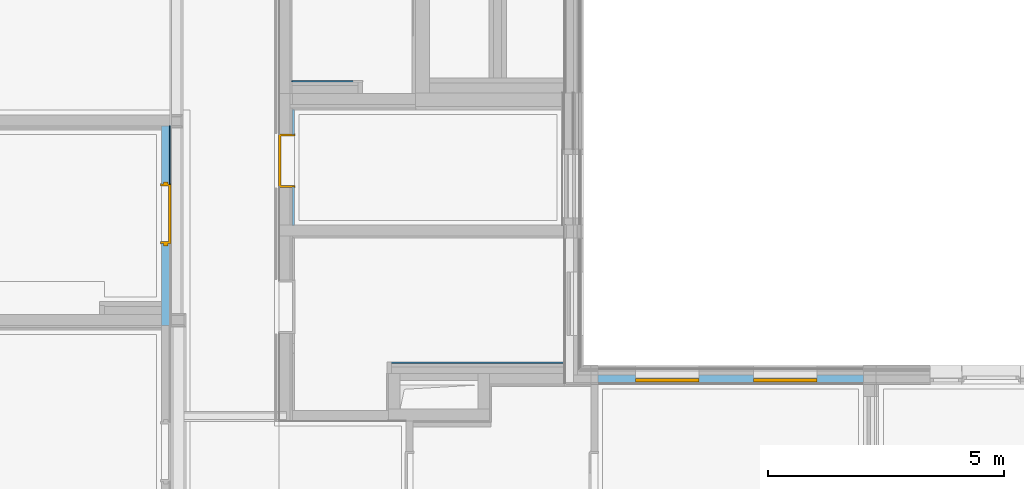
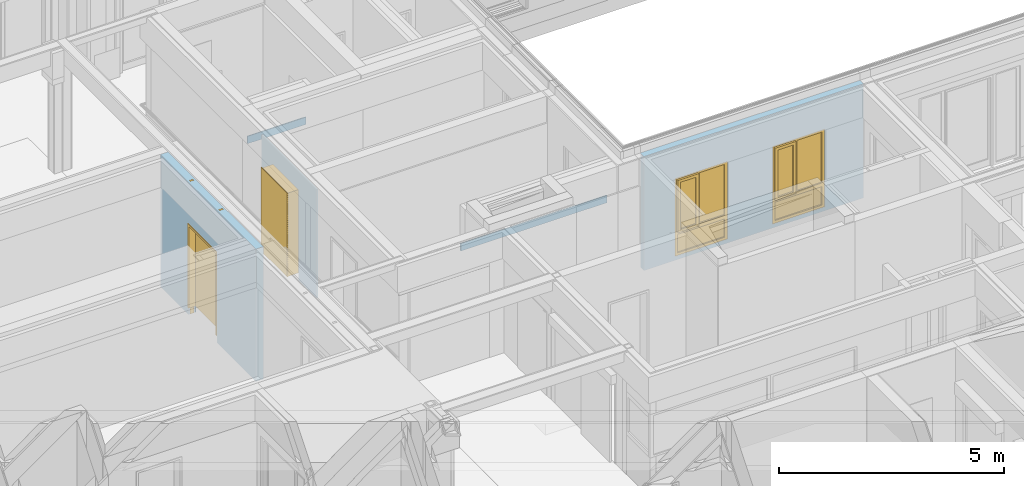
# One storey, part 99 of 207: 3 walls, 2 doors, 2 windows, 4 openings, plus 3 elements that do not belong to this part.
"""IFC4 building model written with IfcOpenShell, lengths in metres."""

from ifc_helpers import new_model, entity, si_unit, converted_unit, derived_unit, frame, frame_2d, origin, origin_with_axes, place, context, subcontext, project, spatial, polyline, rectangle, outline, extrude, closed_shell, open_shell, faceted_brep, surface_model, source, transform, mapped, material, type_object, element, fill, save


model = new_model("IFC4")

# Units and contexts
model_context = context("Model", 3, precision=1e-05, world=origin())
body_context = subcontext(model_context, "Body", "Model", "MODEL_VIEW")
ifc_project = project(units=[si_unit("LENGTHUNIT", "METRE"), si_unit("AREAUNIT", "SQUARE_METRE"), si_unit("VOLUMEUNIT", "CUBIC_METRE"), si_unit("MASSUNIT", "GRAM", prefix="KILO"), converted_unit("PLANEANGLEUNIT", "DEGREE", entity("IfcPlaneAngleMeasure", 0.0174532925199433), si_unit("PLANEANGLEUNIT", "RADIAN"), dimensions=[0, 0, 0, 0, 0, 0, 0]), derived_unit("THERMALTRANSMITTANCEUNIT", [(si_unit("POWERUNIT", "WATT"), 1), (si_unit("THERMODYNAMICTEMPERATUREUNIT", "KELVIN"), -1), (si_unit("LENGTHUNIT", "METRE"), -2)]), derived_unit("VOLUMETRICFLOWRATEUNIT", [(si_unit("LENGTHUNIT", "METRE"), 3), (converted_unit("TIMEUNIT", "hour", entity("IfcTimeMeasure", 3600.0), si_unit("TIMEUNIT", "SECOND"), dimensions=[0, 0, 1, 0, 0, 0, 0]), -1), (si_unit("LENGTHUNIT", "METRE"), -1)])], contexts=[model_context])

# Site, building, storey
site_placement = place(None, origin())
site = spatial("IfcSite", under=ifc_project, at=site_placement, Name="Psychiatrie Neubau Wunstorf", CompositionType="ELEMENT")
building_placement = place(site_placement, origin())
building = spatial("IfcBuilding", under=site, at=building_placement, Name="Neubau H2 Stationsgebäude", CompositionType="ELEMENT")
storey_placement = place(building_placement, frame((0.0, 0.0, -0.2)))
storey = spatial("IfcBuildingStorey", under=building, at=storey_placement, Name="H2 Ebene 0", CompositionType="ELEMENT", Elevation=-0.2)

# Wall, openings, windows
ifc_material_1 = material(Name="WA-HD")
wall_1_placement = place(storey_placement, frame((44.65, 10.1499996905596, 0.5), z_axis=(0.0, 0.0, 1.0), x_axis=(1.0, -3.22744748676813e-16, 0.0)))
wall_1 = element("IfcWall", 1, at=wall_1_placement, inside=storey, material=ifc_material_1, context=body_context, shape_type="SweptSolid", body=[
    extrude(rectangle(XDim=5.63600000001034, YDim=0.16, at=frame_2d((2.81800000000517, 0.08), x_axis=(1.0, 0.0))), origin_with_axes(), (0.0, 0.0, 1.0), 3.1),
])
opening_1_placement = place(wall_1_placement, frame((4.64870000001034, 0.16, 0.1), z_axis=(0.0, -1.0, 0.0), x_axis=(0.0, 0.0, 1.0)))
opening_1 = element("IfcOpeningElement", 2, at=opening_1_placement, cuts=wall_1, Name="Fensteröffnung", ObjectType="Opening", context=body_context, shape_type="SweptSolid", body=[
    extrude(outline(polyline([(2.12, 1.35), (2.12, 0.0), (0.0, 0.0), (0.0, 1.35), (2.12, 1.35)])), origin_with_axes(), (0.0, 0.0, 1.0), 0.16),
])
opening_2_placement = place(wall_1_placement, frame((2.14870000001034, 0.160000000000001, 0.1), z_axis=(0.0, -1.0, 0.0), x_axis=(0.0, 0.0, 1.0)))
opening_2 = element("IfcOpeningElement", 3, at=opening_2_placement, cuts=wall_1, Name="Fensteröffnung", ObjectType="Opening", context=body_context, shape_type="SweptSolid", body=[
    extrude(outline(polyline([(2.12, 1.35), (2.12, 0.0), (0.0, 0.0), (0.0, 1.35), (2.12, 1.35)])), origin_with_axes(), (0.0, 0.0, 1.0), 0.16),
])
shared_shape_1 = source(origin_with_axes(), body_context, "Body", "SurfaceModel", [
    surface_model("IfcShellBasedSurfaceModel", [(0.0, 0.0, 2.12), (0.07, 0.0, 2.12), (0.07, 0.0, 0.0), (0.0, 0.0, 0.0), (0.0, 0.07, 0.0), (0.07, 0.07, 0.0), (0.07, 0.07, 2.12), (0.0, 0.07, 2.12)], [closed_shell([[[0, 1, 2, 3]], [[4, 5, 6, 7]], [[3, 4, 7, 0]], [[2, 5, 4, 3]], [[1, 6, 5, 2]], [[0, 7, 6, 1]]], orient=[[False], [False], [False], [False], [False], [False]])]),
    surface_model("IfcShellBasedSurfaceModel", [(1.28, 0.0, 2.12), (1.35, 0.0, 2.12), (1.35, 0.0, 0.0), (1.28, 0.0, 0.0), (1.28, 0.07, 0.0), (1.35, 0.07, 0.0), (1.35, 0.07, 2.12), (1.28, 0.07, 2.12)], [closed_shell([[[0, 1, 2, 3]], [[4, 5, 6, 7]], [[3, 4, 7, 0]], [[2, 5, 4, 3]], [[1, 6, 5, 2]], [[0, 7, 6, 1]]], orient=[[False], [False], [False], [False], [False], [False]])]),
    surface_model("IfcShellBasedSurfaceModel", [(0.07, 0.0, 0.07), (1.28, 0.0, 0.07), (1.28, 0.0, 0.0), (0.07, 0.0, 0.0), (0.07, 0.07, 0.0), (1.28, 0.07, 0.0), (1.28, 0.07, 0.07), (0.07, 0.07, 0.07)], [closed_shell([[[0, 1, 2, 3]], [[4, 5, 6, 7]], [[3, 4, 7, 0]], [[2, 5, 4, 3]], [[1, 6, 5, 2]], [[0, 7, 6, 1]]], orient=[[False], [False], [False], [False], [False], [False]])]),
    surface_model("IfcShellBasedSurfaceModel", [(0.07, 0.0, 2.12), (1.28, 0.0, 2.12), (1.28, 0.0, 2.05), (0.07, 0.0, 2.05), (0.07, 0.07, 2.05), (1.28, 0.07, 2.05), (1.28, 0.07, 2.12), (0.07, 0.07, 2.12)], [closed_shell([[[0, 1, 2, 3]], [[4, 5, 6, 7]], [[3, 4, 7, 0]], [[2, 5, 4, 3]], [[1, 6, 5, 2]], [[0, 7, 6, 1]]], orient=[[False], [False], [False], [False], [False], [False]])]),
    surface_model("IfcShellBasedSurfaceModel", [(0.07, 0.0, 0.67), (1.28, 0.0, 0.67), (1.28, 0.0, 0.57), (0.07, 0.0, 0.57), (0.07, 0.07, 0.57), (1.28, 0.07, 0.57), (1.28, 0.07, 0.67), (0.07, 0.07, 0.67)], [closed_shell([[[0, 1, 2, 3]], [[4, 5, 6, 7]], [[3, 4, 7, 0]], [[2, 5, 4, 3]], [[1, 6, 5, 2]], [[0, 7, 6, 1]]], orient=[[False], [False], [False], [False], [False], [False]])]),
    surface_model("IfcShellBasedSurfaceModel", [(0.07, 0.035, 0.07), (0.07, 0.035, 0.57), (1.28, 0.035, 0.57), (1.28, 0.035, 0.07)], [open_shell([[[0, 1, 2, 3]]], orient=[[False]])]),
    surface_model("IfcShellBasedSurfaceModel", [(0.57, 0.0, 2.05), (0.64, 0.0, 2.05), (0.64, 0.0, 0.67), (0.57, 0.0, 0.67), (0.57, 0.07, 0.67), (0.64, 0.07, 0.67), (0.64, 0.07, 2.05), (0.57, 0.07, 2.05)], [closed_shell([[[0, 1, 2, 3]], [[4, 5, 6, 7]], [[3, 4, 7, 0]], [[2, 5, 4, 3]], [[1, 6, 5, 2]], [[0, 7, 6, 1]]], orient=[[False], [False], [False], [False], [False], [False]])]),
    surface_model("IfcShellBasedSurfaceModel", [(0.05, -0.05, 2.07), (0.12, -0.05, 2.07), (0.12, -0.05, 0.65), (0.05, -0.05, 0.65), (0.05, 0.02, 0.65), (0.12, 0.02, 0.65), (0.12, 0.02, 2.07), (0.05, 0.02, 2.07)], [closed_shell([[[0, 1, 2, 3]], [[4, 5, 6, 7]], [[3, 4, 7, 0]], [[2, 5, 4, 3]], [[1, 6, 5, 2]], [[0, 7, 6, 1]]], orient=[[False], [False], [False], [False], [False], [False]])]),
    surface_model("IfcShellBasedSurfaceModel", [(0.52, -0.05, 2.07), (0.59, -0.05, 2.07), (0.59, -0.05, 0.65), (0.52, -0.05, 0.65), (0.52, 0.02, 0.65), (0.59, 0.02, 0.65), (0.59, 0.02, 2.07), (0.52, 0.02, 2.07)], [closed_shell([[[0, 1, 2, 3]], [[4, 5, 6, 7]], [[3, 4, 7, 0]], [[2, 5, 4, 3]], [[1, 6, 5, 2]], [[0, 7, 6, 1]]], orient=[[False], [False], [False], [False], [False], [False]])]),
    surface_model("IfcShellBasedSurfaceModel", [(0.12, -0.05, 0.72), (0.52, -0.05, 0.72), (0.52, -0.05, 0.65), (0.12, -0.05, 0.65), (0.12, 0.02, 0.65), (0.52, 0.02, 0.65), (0.52, 0.02, 0.72), (0.12, 0.02, 0.72)], [closed_shell([[[0, 1, 2, 3]], [[4, 5, 6, 7]], [[3, 4, 7, 0]], [[2, 5, 4, 3]], [[1, 6, 5, 2]], [[0, 7, 6, 1]]], orient=[[False], [False], [False], [False], [False], [False]])]),
    surface_model("IfcShellBasedSurfaceModel", [(0.12, -0.05, 2.07), (0.52, -0.05, 2.07), (0.52, -0.05, 2.0), (0.12, -0.05, 2.0), (0.12, 0.02, 2.0), (0.52, 0.02, 2.0), (0.52, 0.02, 2.07), (0.12, 0.02, 2.07)], [closed_shell([[[0, 1, 2, 3]], [[4, 5, 6, 7]], [[3, 4, 7, 0]], [[2, 5, 4, 3]], [[1, 6, 5, 2]], [[0, 7, 6, 1]]], orient=[[False], [False], [False], [False], [False], [False]])]),
    surface_model("IfcShellBasedSurfaceModel", [(0.64, 0.035, 0.67), (0.64, 0.035, 2.05), (1.28, 0.035, 2.05), (1.28, 0.035, 0.67)], [open_shell([[[0, 1, 2, 3]]], orient=[[False]])]),
    surface_model("IfcShellBasedSurfaceModel", [(0.12, -0.015, 0.72), (0.12, -0.015, 2.0), (0.52, -0.015, 2.0), (0.52, -0.015, 0.72)], [open_shell([[[0, 1, 2, 3]]], orient=[[False]])]),
])
window_1_placement = place(opening_1_placement, frame((0.0, 1.35, 0.146), z_axis=(1.0, 0.0, 0.0), x_axis=(0.0, -1.0, -3.22744748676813e-16)))
window_1 = element("IfcWindow", 4, at=window_1_placement, inside=storey, Name="Fenster", OverallHeight=2.12, OverallWidth=1.35, PartitioningType="USERDEFINED", PredefinedType="WINDOW", context=body_context, shape_type="MappedRepresentation", body=[
    mapped(shared_shape_1, transform((0.0, 0.0, 0.0), x_axis=(1.0, 0.0, 0.0), y_axis=(0.0, 1.0, 0.0), z_axis=(0.0, 0.0, 1.0), scale=1.0)),
])
fill(opening_1, window_1)
shared_shape_2 = source(origin_with_axes(), body_context, "Body", "SurfaceModel", [
    surface_model("IfcShellBasedSurfaceModel", [(0.0, 0.0, 2.12), (0.07, 0.0, 2.12), (0.07, 0.0, 0.0), (0.0, 0.0, 0.0), (0.0, 0.07, 0.0), (0.07, 0.07, 0.0), (0.07, 0.07, 2.12), (0.0, 0.07, 2.12)], [closed_shell([[[0, 1, 2, 3]], [[4, 5, 6, 7]], [[3, 4, 7, 0]], [[2, 5, 4, 3]], [[1, 6, 5, 2]], [[0, 7, 6, 1]]], orient=[[False], [False], [False], [False], [False], [False]])]),
    surface_model("IfcShellBasedSurfaceModel", [(1.28, 0.0, 2.12), (1.35, 0.0, 2.12), (1.35, 0.0, 0.0), (1.28, 0.0, 0.0), (1.28, 0.07, 0.0), (1.35, 0.07, 0.0), (1.35, 0.07, 2.12), (1.28, 0.07, 2.12)], [closed_shell([[[0, 1, 2, 3]], [[4, 5, 6, 7]], [[3, 4, 7, 0]], [[2, 5, 4, 3]], [[1, 6, 5, 2]], [[0, 7, 6, 1]]], orient=[[False], [False], [False], [False], [False], [False]])]),
    surface_model("IfcShellBasedSurfaceModel", [(0.07, 0.0, 0.07), (1.28, 0.0, 0.07), (1.28, 0.0, 0.0), (0.07, 0.0, 0.0), (0.07, 0.07, 0.0), (1.28, 0.07, 0.0), (1.28, 0.07, 0.07), (0.07, 0.07, 0.07)], [closed_shell([[[0, 1, 2, 3]], [[4, 5, 6, 7]], [[3, 4, 7, 0]], [[2, 5, 4, 3]], [[1, 6, 5, 2]], [[0, 7, 6, 1]]], orient=[[False], [False], [False], [False], [False], [False]])]),
    surface_model("IfcShellBasedSurfaceModel", [(0.07, 0.0, 2.12), (1.28, 0.0, 2.12), (1.28, 0.0, 2.05), (0.07, 0.0, 2.05), (0.07, 0.07, 2.05), (1.28, 0.07, 2.05), (1.28, 0.07, 2.12), (0.07, 0.07, 2.12)], [closed_shell([[[0, 1, 2, 3]], [[4, 5, 6, 7]], [[3, 4, 7, 0]], [[2, 5, 4, 3]], [[1, 6, 5, 2]], [[0, 7, 6, 1]]], orient=[[False], [False], [False], [False], [False], [False]])]),
    surface_model("IfcShellBasedSurfaceModel", [(0.07, 0.0, 0.67), (1.28, 0.0, 0.67), (1.28, 0.0, 0.57), (0.07, 0.0, 0.57), (0.07, 0.07, 0.57), (1.28, 0.07, 0.57), (1.28, 0.07, 0.67), (0.07, 0.07, 0.67)], [closed_shell([[[0, 1, 2, 3]], [[4, 5, 6, 7]], [[3, 4, 7, 0]], [[2, 5, 4, 3]], [[1, 6, 5, 2]], [[0, 7, 6, 1]]], orient=[[False], [False], [False], [False], [False], [False]])]),
    surface_model("IfcShellBasedSurfaceModel", [(0.07, 0.035, 0.07), (0.07, 0.035, 0.57), (1.28, 0.035, 0.57), (1.28, 0.035, 0.07)], [open_shell([[[0, 1, 2, 3]]], orient=[[False]])]),
    surface_model("IfcShellBasedSurfaceModel", [(0.57, 0.0, 2.05), (0.64, 0.0, 2.05), (0.64, 0.0, 0.67), (0.57, 0.0, 0.67), (0.57, 0.07, 0.67), (0.64, 0.07, 0.67), (0.64, 0.07, 2.05), (0.57, 0.07, 2.05)], [closed_shell([[[0, 1, 2, 3]], [[4, 5, 6, 7]], [[3, 4, 7, 0]], [[2, 5, 4, 3]], [[1, 6, 5, 2]], [[0, 7, 6, 1]]], orient=[[False], [False], [False], [False], [False], [False]])]),
    surface_model("IfcShellBasedSurfaceModel", [(0.05, -0.05, 2.07), (0.12, -0.05, 2.07), (0.12, -0.05, 0.65), (0.05, -0.05, 0.65), (0.05, 0.02, 0.65), (0.12, 0.02, 0.65), (0.12, 0.02, 2.07), (0.05, 0.02, 2.07)], [closed_shell([[[0, 1, 2, 3]], [[4, 5, 6, 7]], [[3, 4, 7, 0]], [[2, 5, 4, 3]], [[1, 6, 5, 2]], [[0, 7, 6, 1]]], orient=[[False], [False], [False], [False], [False], [False]])]),
    surface_model("IfcShellBasedSurfaceModel", [(0.52, -0.05, 2.07), (0.59, -0.05, 2.07), (0.59, -0.05, 0.65), (0.52, -0.05, 0.65), (0.52, 0.02, 0.65), (0.59, 0.02, 0.65), (0.59, 0.02, 2.07), (0.52, 0.02, 2.07)], [closed_shell([[[0, 1, 2, 3]], [[4, 5, 6, 7]], [[3, 4, 7, 0]], [[2, 5, 4, 3]], [[1, 6, 5, 2]], [[0, 7, 6, 1]]], orient=[[False], [False], [False], [False], [False], [False]])]),
    surface_model("IfcShellBasedSurfaceModel", [(0.12, -0.05, 0.72), (0.52, -0.05, 0.72), (0.52, -0.05, 0.65), (0.12, -0.05, 0.65), (0.12, 0.02, 0.65), (0.52, 0.02, 0.65), (0.52, 0.02, 0.72), (0.12, 0.02, 0.72)], [closed_shell([[[0, 1, 2, 3]], [[4, 5, 6, 7]], [[3, 4, 7, 0]], [[2, 5, 4, 3]], [[1, 6, 5, 2]], [[0, 7, 6, 1]]], orient=[[False], [False], [False], [False], [False], [False]])]),
    surface_model("IfcShellBasedSurfaceModel", [(0.12, -0.05, 2.07), (0.52, -0.05, 2.07), (0.52, -0.05, 2.0), (0.12, -0.05, 2.0), (0.12, 0.02, 2.0), (0.52, 0.02, 2.0), (0.52, 0.02, 2.07), (0.12, 0.02, 2.07)], [closed_shell([[[0, 1, 2, 3]], [[4, 5, 6, 7]], [[3, 4, 7, 0]], [[2, 5, 4, 3]], [[1, 6, 5, 2]], [[0, 7, 6, 1]]], orient=[[False], [False], [False], [False], [False], [False]])]),
    surface_model("IfcShellBasedSurfaceModel", [(0.64, 0.035, 0.67), (0.64, 0.035, 2.05), (1.28, 0.035, 2.05), (1.28, 0.035, 0.67)], [open_shell([[[0, 1, 2, 3]]], orient=[[False]])]),
    surface_model("IfcShellBasedSurfaceModel", [(0.12, -0.015, 0.72), (0.12, -0.015, 2.0), (0.52, -0.015, 2.0), (0.52, -0.015, 0.72)], [open_shell([[[0, 1, 2, 3]]], orient=[[False]])]),
])
window_2_placement = place(opening_2_placement, frame((0.0, 1.35, 0.146), z_axis=(1.0, 0.0, 0.0), x_axis=(0.0, -1.0, -3.22744748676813e-16)))
window_2 = element("IfcWindow", 5, at=window_2_placement, inside=storey, Name="Fenster", OverallHeight=2.12, OverallWidth=1.35, PartitioningType="USERDEFINED", PredefinedType="WINDOW", context=body_context, shape_type="MappedRepresentation", body=[
    mapped(shared_shape_2, transform((0.0, 0.0, 0.0), x_axis=(1.0, 0.0, 0.0), y_axis=(0.0, 1.0, 0.0), z_axis=(0.0, 0.0, 1.0), scale=1.0)),
])
fill(opening_2, window_2)

# Walls
wall_2_placement = place(storey_placement, frame((38.154, 16.5320060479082, 2.35)))
element("IfcWall", 6, at=wall_2_placement, inside=storey, Name="WV 1.1", context=body_context, shape_type="Brep", body=[
    faceted_brep([(1.5, 0.0, 0.0), (1.5, 0.025, 0.0), (0.0, 0.025, 0.0), (0.0, 0.0, 0.0), (1.5, 0.025, 0.2), (1.5, 0.0, 0.2), (0.0, 0.0, 0.2), (0.0, 0.025, 0.2)], [[[0, 1, 2, 3]], [[4, 5, 6, 7]], [[1, 0, 5, 4]], [[2, 1, 4, 7]], [[3, 2, 7, 6]], [[0, 3, 6, 5]]], orient=[[False], [False], [False], [False], [False], [False]]),
])
wall_3_placement = place(storey_placement, frame((40.1790000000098, 10.5559937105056, 2.35)))
element("IfcWall", 7, at=wall_3_placement, inside=storey, Name="WV 1.1", context=body_context, shape_type="Brep", body=[
    faceted_brep([(3.76, 0.0, 0.0), (3.76, 0.025, 0.0), (0.0, 0.0249999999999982, 0.0), (0.0, 0.0, 0.0), (3.76, 0.025, 0.2), (3.76, 0.0, 0.2), (0.0, 0.0, 0.2), (0.0, 0.0249999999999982, 0.2)], [[[0, 1, 2, 3]], [[4, 5, 6, 7]], [[1, 0, 5, 4]], [[2, 1, 4, 7]], [[3, 2, 7, 6]], [[0, 3, 6, 5]]], orient=[[False], [False], [False], [False], [False], [False]]),
])

# Wall, opening, door
ifc_material_2 = material(Name="WI-LB")
wall_4_placement = place(storey_placement, frame((38.204, 13.489496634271, 0.0), z_axis=(0.0, 0.0, 1.0), x_axis=(0.0, 1.0, 0.0)))
wall_4 = element("IfcWall", 8, at=wall_4_placement, inside=storey, material=ifc_material_2, context=body_context, shape_type="SweptSolid", body=[
    extrude(rectangle(XDim=2.44600941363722, YDim=0.0395, at=frame_2d((1.22300470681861, 0.01975), x_axis=(1.0, 0.0))), origin_with_axes(), (0.0, 0.0, 1.0), 2.95),
])
opening_3_placement = place(wall_4_placement, frame((1.93550336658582, 0.0395, 0.0), z_axis=(0.0, -1.0, 0.0), x_axis=(0.0, 0.0, 1.0)))
opening_3 = element("IfcOpeningElement", 9, at=opening_3_placement, cuts=wall_4, Name="Türöffnung", ObjectType="Opening", context=body_context, shape_type="SweptSolid", body=[
    extrude(outline(polyline([(2.46, 1.135), (2.46, 0.0), (0.0, 0.0), (0.0, 1.135), (2.46, 1.135)])), origin_with_axes(), (0.0, 0.0, 1.0), 0.0395),
])
ifc_material_3 = material(Name="TI-1F-UZ-D")
door_type_1 = type_object("IfcDoorType", Name="SMT", OperationType="SINGLE_SWING_RIGHT", ParameterTakesPrecedence=False, PredefinedType="DOOR")
shared_shape_3 = source(origin_with_axes(), body_context, "Body", "Brep", [
    faceted_brep([(1.135, -0.0149999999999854, 2.46), (1.135, -0.0149999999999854, 0.2), (1.095, -0.0149999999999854, 0.2), (1.095, -0.0149999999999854, 2.46), (1.135, 0.336500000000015, 0.2), (1.135, 0.336500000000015, 2.46), (1.095, 0.336500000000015, 2.46), (1.095, 0.336500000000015, 0.2)], [[[0, 1, 2, 3]], [[4, 5, 6, 7]], [[1, 0, 5, 4]], [[2, 1, 4, 7]], [[3, 2, 7, 6]], [[0, 3, 6, 5]]], orient=[[False], [False], [False], [False], [False], [False]]),
    faceted_brep([(1.135, -0.0149999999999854, 2.475), (1.15, -0.0149999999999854, 2.475), (1.15, -0.0149999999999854, 0.2), (1.135, -0.0149999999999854, 0.2), (1.135, 0.0, 0.2), (1.15, 0.0, 0.2), (1.15, 0.0, 2.475), (1.135, 0.0, 2.475)], [[[0, 1, 2, 3]], [[4, 5, 6, 7]], [[3, 4, 7, 0]], [[2, 5, 4, 3]], [[1, 6, 5, 2]], [[0, 7, 6, 1]]], orient=[[False], [False], [False], [False], [False], [False]]),
    faceted_brep([(1.135, 0.321500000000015, 2.475), (1.15, 0.321500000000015, 2.475), (1.15, 0.321500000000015, 0.2), (1.135, 0.321500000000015, 0.2), (1.135, 0.336500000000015, 0.2), (1.15, 0.336500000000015, 0.2), (1.15, 0.336500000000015, 2.475), (1.135, 0.336500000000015, 2.475)], [[[0, 1, 2, 3]], [[4, 5, 6, 7]], [[3, 4, 7, 0]], [[2, 5, 4, 3]], [[1, 6, 5, 2]], [[0, 7, 6, 1]]], orient=[[False], [False], [False], [False], [False], [False]]),
    faceted_brep([(0.0399999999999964, -0.0149999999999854, 2.46), (0.0399999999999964, -0.0149999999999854, 0.2), (0.0, -0.0149999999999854, 0.2), (0.0, -0.0149999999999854, 2.46), (0.0399999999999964, 0.336500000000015, 0.2), (0.0399999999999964, 0.336500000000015, 2.46), (0.0, 0.336500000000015, 2.46), (0.0, 0.336500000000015, 0.2)], [[[0, 1, 2, 3]], [[4, 5, 6, 7]], [[1, 0, 5, 4]], [[2, 1, 4, 7]], [[3, 2, 7, 6]], [[0, 3, 6, 5]]], orient=[[False], [False], [False], [False], [False], [False]]),
    faceted_brep([(0.0, -0.0149999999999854, 2.475), (0.0, -0.0149999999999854, 0.2), (-0.0150000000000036, -0.0149999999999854, 0.2), (-0.0150000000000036, -0.0149999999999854, 2.475), (0.0, 0.0, 0.2), (0.0, 0.0, 2.475), (-0.0150000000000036, 0.0, 2.475), (-0.0150000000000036, 0.0, 0.2)], [[[0, 1, 2, 3]], [[4, 5, 6, 7]], [[1, 0, 5, 4]], [[2, 1, 4, 7]], [[3, 2, 7, 6]], [[0, 3, 6, 5]]], orient=[[False], [False], [False], [False], [False], [False]]),
    faceted_brep([(0.0, 0.321500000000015, 2.475), (0.0, 0.321500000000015, 0.2), (-0.0150000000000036, 0.321500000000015, 0.2), (-0.0150000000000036, 0.321500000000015, 2.475), (0.0, 0.336500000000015, 0.2), (0.0, 0.336500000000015, 2.475), (-0.0150000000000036, 0.336500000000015, 2.475), (-0.0150000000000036, 0.336500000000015, 0.2)], [[[0, 1, 2, 3]], [[4, 5, 6, 7]], [[1, 0, 5, 4]], [[2, 1, 4, 7]], [[3, 2, 7, 6]], [[0, 3, 6, 5]]], orient=[[False], [False], [False], [False], [False], [False]]),
    faceted_brep([(1.095, -0.0149999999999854, 2.46), (1.095, -0.0149999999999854, 2.42), (0.0399999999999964, -0.0149999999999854, 2.42), (0.0399999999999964, -0.0149999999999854, 2.46), (1.095, 0.336500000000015, 2.42), (1.095, 0.336500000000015, 2.46), (0.0399999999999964, 0.336500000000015, 2.46), (0.0399999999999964, 0.336500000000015, 2.42)], [[[0, 1, 2, 3]], [[4, 5, 6, 7]], [[1, 0, 5, 4]], [[2, 1, 4, 7]], [[3, 2, 7, 6]], [[0, 3, 6, 5]]], orient=[[False], [False], [False], [False], [False], [False]]),
    faceted_brep([(1.135, -0.0149999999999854, 2.475), (1.135, -0.0149999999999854, 2.46), (0.0, -0.0149999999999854, 2.46), (0.0, -0.0149999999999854, 2.475), (1.135, 0.0, 2.46), (1.135, 0.0, 2.475), (0.0, 0.0, 2.475), (0.0, 0.0, 2.46)], [[[0, 1, 2, 3]], [[4, 5, 6, 7]], [[1, 0, 5, 4]], [[2, 1, 4, 7]], [[3, 2, 7, 6]], [[0, 3, 6, 5]]], orient=[[False], [False], [False], [False], [False], [False]]),
    faceted_brep([(1.135, 0.321500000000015, 2.475), (1.135, 0.321500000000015, 2.46), (0.0, 0.321500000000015, 2.46), (0.0, 0.321500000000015, 2.475), (1.135, 0.336500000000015, 2.46), (1.135, 0.336500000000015, 2.475), (0.0, 0.336500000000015, 2.475), (0.0, 0.336500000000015, 2.46)], [[[0, 1, 2, 3]], [[4, 5, 6, 7]], [[1, 0, 5, 4]], [[2, 1, 4, 7]], [[3, 2, 7, 6]], [[0, 3, 6, 5]]], orient=[[False], [False], [False], [False], [False], [False]]),
    faceted_brep([(1.11, 0.287500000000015, 2.435), (1.11, 0.287500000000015, 0.2), (0.0249999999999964, 0.287500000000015, 0.2), (0.0249999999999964, 0.287500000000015, 2.435), (1.11, 0.337500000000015, 0.2), (1.11, 0.337500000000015, 2.435), (0.0249999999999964, 0.337500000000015, 2.435), (0.0249999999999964, 0.337500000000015, 0.2)], [[[0, 1, 2, 3]], [[4, 5, 6, 7]], [[1, 0, 5, 4]], [[2, 1, 4, 7]], [[3, 2, 7, 6]], [[0, 3, 6, 5]]], orient=[[False], [False], [False], [False], [False], [False]]),
])
door_1_placement = place(opening_3_placement, frame((0.0, 1.135, 0.0395), z_axis=(1.0, 0.0, 0.0), x_axis=(0.0, -1.0, 0.0)))
door_1 = element("IfcDoor", 10, at=door_1_placement, inside=storey, type_object=door_type_1, material=ifc_material_3, Name="SMT", OverallHeight=2.46, OverallWidth=1.135, context=body_context, shape_type="MappedRepresentation", body=[
    mapped(shared_shape_3, transform((0.0, 0.0, 0.0), x_axis=(1.0, 0.0, 0.0), y_axis=(0.0, 1.0, 0.0), z_axis=(0.0, 0.0, 1.0), scale=1.0)),
])
fill(opening_3, door_1)

ifc_material_4 = material(Name="WI-LB")
wall_5_placement = place(storey_placement, frame((35.57, 11.3575575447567, 0.0), z_axis=(0.0, 0.0, 1.0), x_axis=(0.0, 1.0, 0.0)))
wall_5 = element("IfcWall", 11, at=wall_5_placement, inside=storey, material=ifc_material_4, context=body_context, shape_type="SweptSolid", body=[
    extrude(rectangle(XDim=4.24294154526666, YDim=0.19, at=frame_2d((2.12147077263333, 0.095), x_axis=(1.0, 0.0))), origin_with_axes(), (0.0, 0.0, 1.0), 3.6),
])
opening_4_placement = place(wall_5_placement, frame((3.00244245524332, 0.19, 0.0), z_axis=(0.0, -1.0, 0.0), x_axis=(0.0, 0.0, 1.0)))
opening_4 = element("IfcOpeningElement", 12, at=opening_4_placement, cuts=wall_5, Name="Türöffnung", ObjectType="Opening", context=body_context, shape_type="SweptSolid", body=[
    extrude(outline(polyline([(2.46, 1.26), (2.46, 0.0), (0.0, 0.0), (0.0, 1.26), (2.46, 1.26)])), origin_with_axes(), (0.0, 0.0, 1.0), 0.19),
])
ifc_material_5 = material(Name="TI-1F-UZ-D")
door_type_2 = type_object("IfcDoorType", Name="SMT", OperationType="SINGLE_SWING_RIGHT", ParameterTakesPrecedence=False, PredefinedType="DOOR")
shared_shape_4 = source(origin_with_axes(), body_context, "Body", "Brep", [
    faceted_brep([(-0.0499999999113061, 0.0449999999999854, 0.0), (0.0, 0.0449999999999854, 0.0), (0.0, 0.144999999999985, 0.0), (-0.0499999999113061, 0.144999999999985, 0.0), (-0.0499999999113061, 0.144999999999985, 3.6), (0.0, 0.144999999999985, 3.6), (0.0, 0.0449999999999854, 3.6), (-0.0499999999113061, 0.0449999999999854, 3.6)], [[[0, 1, 2, 3]], [[4, 5, 6, 7]], [[3, 4, 7, 0]], [[2, 5, 4, 3]], [[1, 6, 5, 2]], [[0, 7, 6, 1]]], orient=[[False], [False], [False], [False], [False], [False]]),
    faceted_brep([(1.26, 0.0449999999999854, 0.0), (1.30999999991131, 0.0449999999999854, 0.0), (1.30999999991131, 0.144999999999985, 0.0), (1.26, 0.144999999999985, 0.0), (1.26, 0.144999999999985, 3.6), (1.30999999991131, 0.144999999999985, 3.6), (1.30999999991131, 0.0449999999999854, 3.6), (1.26, 0.0449999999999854, 3.6)], [[[0, 1, 2, 3]], [[4, 5, 6, 7]], [[3, 4, 7, 0]], [[2, 5, 4, 3]], [[1, 6, 5, 2]], [[0, 7, 6, 1]]], orient=[[False], [False], [False], [False], [False], [False]]),
    faceted_brep([(0.0, 0.0449999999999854, 2.46), (1.26, 0.0449999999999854, 2.46), (1.26, 0.144999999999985, 2.46), (0.0, 0.144999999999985, 2.46), (0.0, 0.144999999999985, 2.51), (1.26, 0.144999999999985, 2.51), (1.26, 0.0449999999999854, 2.51), (0.0, 0.0449999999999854, 2.51)], [[[0, 1, 2, 3]], [[4, 5, 6, 7]], [[3, 4, 7, 0]], [[2, 5, 4, 3]], [[1, 6, 5, 2]], [[0, 7, 6, 1]]], orient=[[False], [False], [False], [False], [False], [False]]),
])
shared_shape_5 = source(origin_with_axes(), body_context, "Body", "Brep", [
    faceted_brep([(1.26, -0.0150000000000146, 2.46), (1.26, -0.0150000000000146, 0.2), (1.22, -0.0150000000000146, 0.2), (1.22, -0.0150000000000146, 2.46), (1.26, 0.204999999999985, 0.2), (1.26, 0.204999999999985, 2.46), (1.22, 0.204999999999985, 2.46), (1.22, 0.204999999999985, 0.2)], [[[0, 1, 2, 3]], [[4, 5, 6, 7]], [[1, 0, 5, 4]], [[2, 1, 4, 7]], [[3, 2, 7, 6]], [[0, 3, 6, 5]]], orient=[[False], [False], [False], [False], [False], [False]]),
    faceted_brep([(1.26, -0.0150000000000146, 2.475), (1.275, -0.0150000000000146, 2.475), (1.275, -0.0150000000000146, 0.2), (1.26, -0.0150000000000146, 0.2), (1.26, 0.0, 0.2), (1.275, 0.0, 0.2), (1.275, 0.0, 2.475), (1.26, 0.0, 2.475)], [[[0, 1, 2, 3]], [[4, 5, 6, 7]], [[3, 4, 7, 0]], [[2, 5, 4, 3]], [[1, 6, 5, 2]], [[0, 7, 6, 1]]], orient=[[False], [False], [False], [False], [False], [False]]),
    faceted_brep([(1.26, 0.189999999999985, 2.475), (1.275, 0.189999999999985, 2.475), (1.275, 0.189999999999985, 0.2), (1.26, 0.189999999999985, 0.2), (1.26, 0.204999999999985, 0.2), (1.275, 0.204999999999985, 0.2), (1.275, 0.204999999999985, 2.475), (1.26, 0.204999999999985, 2.475)], [[[0, 1, 2, 3]], [[4, 5, 6, 7]], [[3, 4, 7, 0]], [[2, 5, 4, 3]], [[1, 6, 5, 2]], [[0, 7, 6, 1]]], orient=[[False], [False], [False], [False], [False], [False]]),
    faceted_brep([(0.0400000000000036, -0.0150000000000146, 2.46), (0.0400000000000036, -0.0150000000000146, 0.2), (0.0, -0.0150000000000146, 0.2), (0.0, -0.0150000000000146, 2.46), (0.0400000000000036, 0.204999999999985, 0.2), (0.0400000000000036, 0.204999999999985, 2.46), (0.0, 0.204999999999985, 2.46), (0.0, 0.204999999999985, 0.2)], [[[0, 1, 2, 3]], [[4, 5, 6, 7]], [[1, 0, 5, 4]], [[2, 1, 4, 7]], [[3, 2, 7, 6]], [[0, 3, 6, 5]]], orient=[[False], [False], [False], [False], [False], [False]]),
    faceted_brep([(0.0, -0.0150000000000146, 2.475), (0.0, -0.0150000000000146, 0.2), (-0.0149999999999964, -0.0150000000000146, 0.2), (-0.0149999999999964, -0.0150000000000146, 2.475), (0.0, 0.0, 0.2), (0.0, 0.0, 2.475), (-0.0149999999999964, 0.0, 2.475), (-0.0149999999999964, 0.0, 0.2)], [[[0, 1, 2, 3]], [[4, 5, 6, 7]], [[1, 0, 5, 4]], [[2, 1, 4, 7]], [[3, 2, 7, 6]], [[0, 3, 6, 5]]], orient=[[False], [False], [False], [False], [False], [False]]),
    faceted_brep([(0.0, 0.189999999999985, 2.475), (0.0, 0.189999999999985, 0.2), (-0.0149999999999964, 0.189999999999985, 0.2), (-0.0149999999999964, 0.189999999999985, 2.475), (0.0, 0.204999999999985, 0.2), (0.0, 0.204999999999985, 2.475), (-0.0149999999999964, 0.204999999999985, 2.475), (-0.0149999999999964, 0.204999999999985, 0.2)], [[[0, 1, 2, 3]], [[4, 5, 6, 7]], [[1, 0, 5, 4]], [[2, 1, 4, 7]], [[3, 2, 7, 6]], [[0, 3, 6, 5]]], orient=[[False], [False], [False], [False], [False], [False]]),
    faceted_brep([(1.22, -0.0150000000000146, 2.46), (1.22, -0.0150000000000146, 2.42), (0.0400000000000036, -0.0150000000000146, 2.42), (0.0400000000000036, -0.0150000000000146, 2.46), (1.22, 0.204999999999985, 2.42), (1.22, 0.204999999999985, 2.46), (0.0400000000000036, 0.204999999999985, 2.46), (0.0400000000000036, 0.204999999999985, 2.42)], [[[0, 1, 2, 3]], [[4, 5, 6, 7]], [[1, 0, 5, 4]], [[2, 1, 4, 7]], [[3, 2, 7, 6]], [[0, 3, 6, 5]]], orient=[[False], [False], [False], [False], [False], [False]]),
    faceted_brep([(1.26, -0.0150000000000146, 2.475), (1.26, -0.0150000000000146, 2.46), (0.0, -0.0150000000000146, 2.46), (0.0, -0.0150000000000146, 2.475), (1.26, 0.0, 2.46), (1.26, 0.0, 2.475), (0.0, 0.0, 2.475), (0.0, 0.0, 2.46)], [[[0, 1, 2, 3]], [[4, 5, 6, 7]], [[1, 0, 5, 4]], [[2, 1, 4, 7]], [[3, 2, 7, 6]], [[0, 3, 6, 5]]], orient=[[False], [False], [False], [False], [False], [False]]),
    faceted_brep([(1.26, 0.189999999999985, 2.475), (1.26, 0.189999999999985, 2.46), (0.0, 0.189999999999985, 2.46), (0.0, 0.189999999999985, 2.475), (1.26, 0.204999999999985, 2.46), (1.26, 0.204999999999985, 2.475), (0.0, 0.204999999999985, 2.475), (0.0, 0.204999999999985, 2.46)], [[[0, 1, 2, 3]], [[4, 5, 6, 7]], [[1, 0, 5, 4]], [[2, 1, 4, 7]], [[3, 2, 7, 6]], [[0, 3, 6, 5]]], orient=[[False], [False], [False], [False], [False], [False]]),
    faceted_brep([(1.235, 0.155999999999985, 2.435), (1.235, 0.155999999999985, 0.2), (0.0250000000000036, 0.155999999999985, 0.2), (0.0250000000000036, 0.155999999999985, 2.435), (1.235, 0.205999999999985, 0.2), (1.235, 0.205999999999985, 2.435), (0.0250000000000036, 0.205999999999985, 2.435), (0.0250000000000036, 0.205999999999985, 0.2)], [[[0, 1, 2, 3]], [[4, 5, 6, 7]], [[1, 0, 5, 4]], [[2, 1, 4, 7]], [[3, 2, 7, 6]], [[0, 3, 6, 5]]], orient=[[False], [False], [False], [False], [False], [False]]),
])
door_2_placement = place(opening_4_placement, frame((0.0, 0.0, 0.0), z_axis=(1.0, 0.0, 0.0), x_axis=(0.0, 1.0, 0.0)))
door_2 = element("IfcDoor", 13, at=door_2_placement, inside=storey, type_object=door_type_2, material=ifc_material_5, Name="SMT", OverallHeight=2.46, OverallWidth=1.26, context=body_context, shape_type="MappedRepresentation", body=[
    mapped(shared_shape_4, transform((0.0, 0.0, 0.0), x_axis=(1.0, 0.0, 0.0), y_axis=(0.0, 1.0, 0.0), z_axis=(0.0, 0.0, 1.0), scale=1.0)),
    mapped(shared_shape_5, transform((0.0, 0.0, 0.0), x_axis=(1.0, 0.0, 0.0), y_axis=(0.0, 1.0, 0.0), z_axis=(0.0, 0.0, 1.0), scale=1.0)),
])
fill(opening_4, door_2)

# Wall
wall_6_placement = place(storey_placement, frame((35.545, 14.36, 0.0)))
element("IfcWall", 14, at=wall_6_placement, inside=storey, Name="WV 1.1", context=body_context, shape_type="Brep", body=[
    faceted_brep([(0.025, 1.24, 0.0), (0.0, 1.24, 0.0), (0.0, 0.0, 0.0), (0.025, 0.0, 0.0), (0.0, 1.24, 0.25), (0.025, 1.24, 0.25), (0.025, 0.0, 0.25), (0.0, 0.0, 0.25)], [[[0, 1, 2, 3]], [[4, 5, 6, 7]], [[1, 0, 5, 4]], [[2, 1, 4, 7]], [[3, 2, 7, 6]], [[0, 3, 6, 5]]], orient=[[False], [False], [False], [False], [False], [False]]),
])

save(model, "model.ifc")
